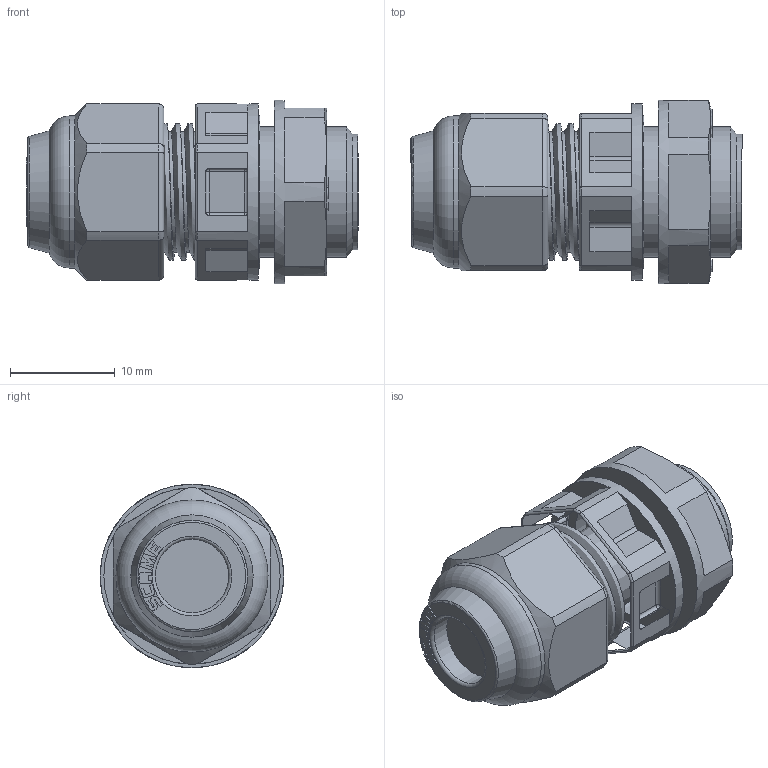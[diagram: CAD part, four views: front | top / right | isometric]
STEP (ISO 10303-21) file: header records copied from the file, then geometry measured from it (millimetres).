
FILE_DESCRIPTION(/* description */ (''),/* implementation_level */ '2;1');
FILE_NAME(/* name */ '4004526.stp',/* time_stamp */ '2016-09-26T09:32:05+02:00',/* author */ (''),/* organization */ (''),/* preprocessor_version */ 'ST-DEVELOPER v16',/* originating_system */ 'SIEMENS PLM Software NX 11.0',/* authorisation */ '');
FILE_SCHEMA (('AUTOMOTIVE_DESIGN { 1 0 10303 214 3 1 1 1 }'));
Length unit declared in the file: millimetre
Products named in the file (1): 4004526_LINKEDEXT_jt
Bounding box: 31.65 x 17.5 x 17.5 mm (x, y, z)
Surface area: 3709.7 mm2 (no closed solid volume)
Topology: 0 solids, 16 shells, 209 faces, 835 edges, 614 vertices
Faces by surface type: plane 108, cylinder 56, torus 16, cone 12, sphere 8, extrusion 7, bspline 2
Full cylindrical faces by diameter (mm): 7 x2, 11 x1, 11.5 x7, 12.4 x1, 14.5 x1, 16.8 x1, 17.5 x1
Entity records: 15225 total; most frequent: CARTESIAN_POINT 8907, DIRECTION 1159, ORIENTED_EDGE 1152, EDGE_CURVE 781, VERTEX_POINT 595, VECTOR 425, LINE 418, AXIS2_PLACEMENT_3D 367
